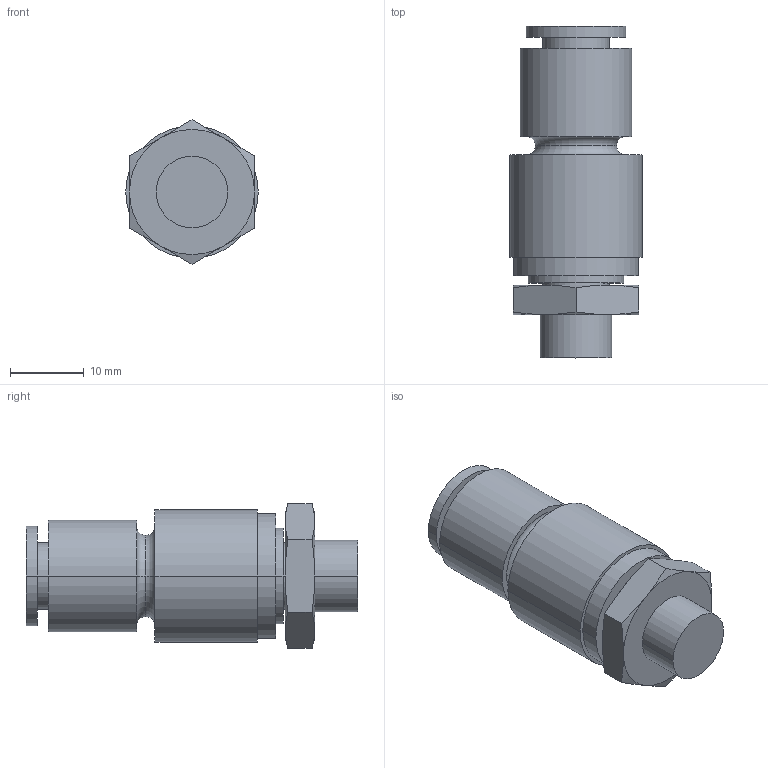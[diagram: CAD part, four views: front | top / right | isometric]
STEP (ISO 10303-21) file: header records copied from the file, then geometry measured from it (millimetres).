
FILE_DESCRIPTION (( 'STEP AP203' ), '1' );
FILE_NAME ('FKXH08-01.STEP', '2022-04-18T15:16:25', ( '' ), ( '' ), 'SwSTEP 2.0', 'SolidWorks 2019', '' );
FILE_SCHEMA (( 'CONFIG_CONTROL_DESIGN' ));
Length unit declared in the file: millimetre
Products named in the file (1): FKXH08-01
Bounding box: 18 x 45.1 x 19.63 mm (x, y, z)
Volume: 7512.9 mm3; surface area: 3781.4 mm2
Topology: 1 solids, 1 shells, 52 faces, 106 edges, 66 vertices
Faces by surface type: cylinder 18, plane 18, cone 12, torus 4
Entity records: 1705 total; most frequent: CARTESIAN_POINT 525, DIRECTION 246, ORIENTED_EDGE 212, AXIS2_PLACEMENT_3D 111, EDGE_CURVE 106, VERTEX_POINT 66, EDGE_LOOP 62, CIRCLE 58
